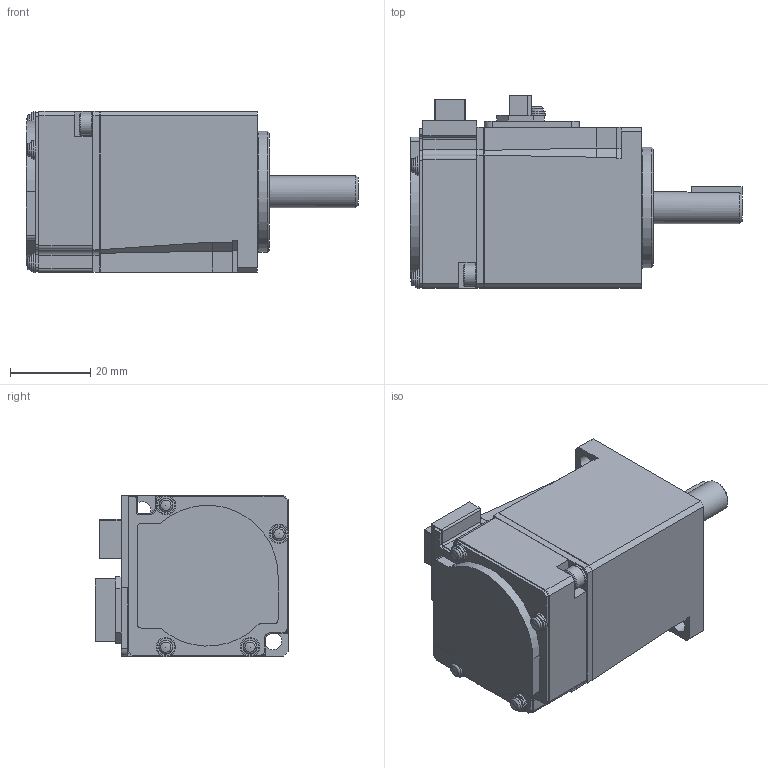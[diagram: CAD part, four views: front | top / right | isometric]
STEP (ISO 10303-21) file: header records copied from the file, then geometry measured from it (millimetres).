
FILE_DESCRIPTION( ( 'STEP AP214' ), ' ' );
FILE_NAME( 'p:/temp/worker_253/3140_2788/app_57_12016081613312208344823260eae72_000000_00_00_000000/format_0/MHMF5AZL1U1 Z0.stp', '2016-08-16T11:31:23', ( '' ), ( '' ), ' ', 'PARTsolutions', ' ' );
FILE_SCHEMA( ( 'AUTOMOTIVE_DESIGN { 1 0 10303 214 1 1 1 1 }' ) );
Length unit declared in the file: millimetre
Products named in the file (2): MHMF5AZL1U1 Z0; _MHMF5A2L1U2con
Assembly tree (1 placements, depth 2):
  MHMF5AZL1U1 Z0
    _MHMF5A2L1U2con
Bounding box: 82.5 x 48.05 x 40.15 mm (x, y, z)
Volume: 91341.2 mm3; surface area: 15810.4 mm2
Topology: 1 solids, 1 shells, 454 faces, 1167 edges, 757 vertices
Faces by surface type: plane 342, cylinder 74, cone 27, torus 6, sphere 5
Full cylindrical faces by diameter (mm): 1.567 x8, 2.459 x1, 3.1 x1, 4.3 x3, 4.4 x5, 4.8 x4, 5.5 x2, 6 x2, 8 x1, 8.9 x1, 10.5 x1, 30 x1
Entity records: 16725 total; most frequent: CARTESIAN_POINT 2294, DIRECTION 2159, ORIENTED_EDGE 2136, EDGE_CURVE 1068, LINE 883, VECTOR 883, VERTEX_POINT 739, AXIS2_PLACEMENT_3D 638
